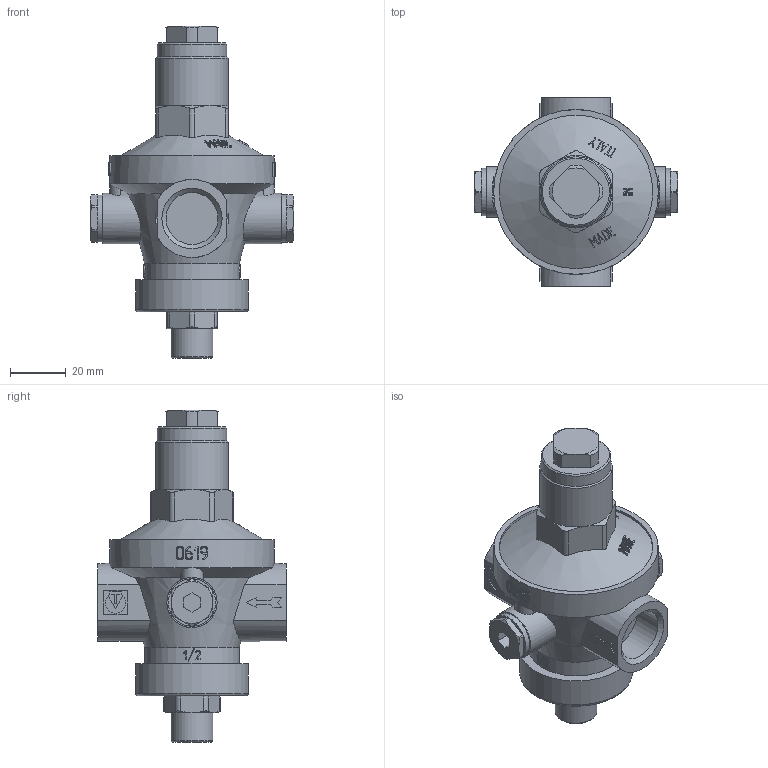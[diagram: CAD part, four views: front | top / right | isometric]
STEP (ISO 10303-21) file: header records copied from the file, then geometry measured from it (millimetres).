
FILE_DESCRIPTION(('STEP AP242'), '1');
FILE_NAME('VT.085.N.0407', '', ('UNSPECIFIED'), ('UNSPECIFIED'), 'C3D Converter', 'C3D Toolkit', '');
FILE_SCHEMA(('AP242_MANAGED_MODEL_BASED_3D_ENGINEERING_MIM_LF { 1 0 10303 442 1 1 4 }'));
Length unit declared in the file: millimetre
Bounding box: 73 x 67.5 x 119 mm (x, y, z)
Volume: 135602.9 mm3; surface area: 23076.9 mm2
Topology: 1 solids, 1 shells, 769 faces, 2128 edges, 1412 vertices
Faces by surface type: extrusion 346, plane 314, cylinder 55, cone 52, torus 2
Full cylindrical faces by diameter (mm): 15 x1, 17 x2, 18 x2, 18.632 x2, 25 x1, 26 x1, 34 x1, 40.5 x1, 55 x1, 59 x1
Entity records: 37272 total; most frequent: CARTESIAN_POINT 19682, ORIENTED_EDGE 4186, DIRECTION 2419, EDGE_CURVE 2093, VERTEX_POINT 1399, B_SPLINE_CURVE_WITH_KNOTS 1303, VECTOR 1227, LINE 881
